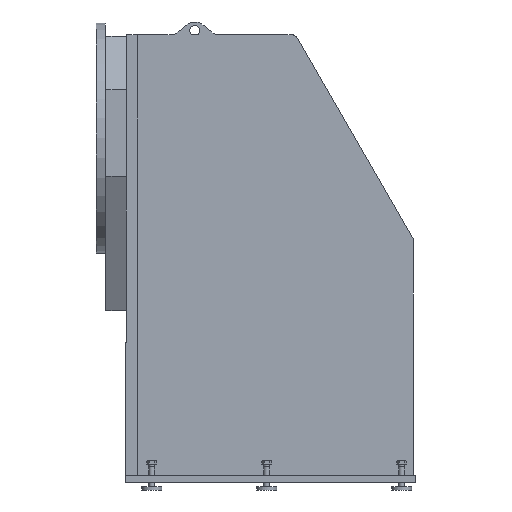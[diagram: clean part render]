
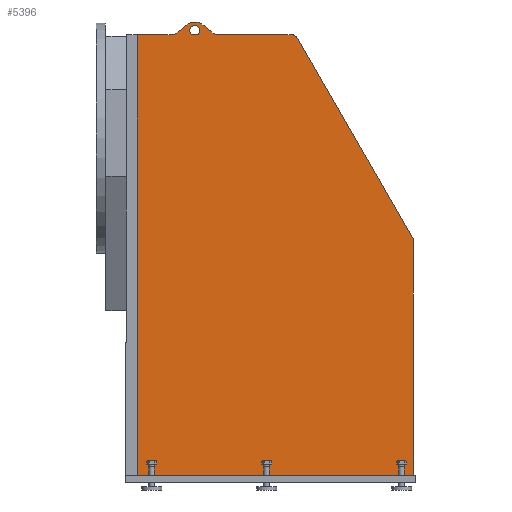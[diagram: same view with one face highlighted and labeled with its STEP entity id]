
A CAD part, front view. The second image highlights one B-rep face of the part: STEP entity #5396.
In plain terms, the highlighted planar face has unit normal (0, -1, 0).
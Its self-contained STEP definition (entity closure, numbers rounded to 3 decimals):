
#1065=CARTESIAN_POINT('',(0.,-325.,-1175.));
#1066=VERTEX_POINT('',#1065);
#1073=CARTESIAN_POINT('',(0.,-325.0,360.0));
#1074=VERTEX_POINT('',#1073);
#1075=CARTESIAN_POINT('',(0.,-325.,-1175.));
#1076=DIRECTION('',(0.0,0.0,1.0));
#1077=VECTOR('',#1076,1535.);
#1078=LINE('',#1075,#1077);
#1079=EDGE_CURVE('',#1066,#1074,#1078,.T.);
#1351=CARTESIAN_POINT('',(208.724,-325.,360.));
#1352=VERTEX_POINT('',#1351);
#1359=CARTESIAN_POINT('',(190.696,-325.,360.));
#1360=VERTEX_POINT('',#1359);
#1361=CARTESIAN_POINT('',(199.71,-325.,375.));
#1362=DIRECTION('',(0.0,1.0,0.0));
#1363=DIRECTION('',(1.0,0.0,0.0));
#1364=AXIS2_PLACEMENT_3D('',#1361,#1362,#1363);
#1365=CIRCLE('',#1364,17.5);
#1366=EDGE_CURVE('',#1360,#1352,#1365,.T.);
#5084=CARTESIAN_POINT('',(538.452,-325.,360.));
#5085=VERTEX_POINT('',#5084);
#5086=CARTESIAN_POINT('',(555.773,-325.,349.999));
#5087=VERTEX_POINT('',#5086);
#5088=CARTESIAN_POINT('',(538.452,-325.,340.));
#5089=DIRECTION('',(0.,1.0,0.));
#5090=DIRECTION('',(0.5,0.,0.866));
#5091=AXIS2_PLACEMENT_3D('',#5088,#5089,#5090);
#5092=CIRCLE('',#5091,20.);
#5093=EDGE_CURVE('',#5085,#5087,#5092,.T.);
#5116=CARTESIAN_POINT('',(113.621,-325.,360.));
#5117=VERTEX_POINT('',#5116);
#5118=CARTESIAN_POINT('',(0.,-325.0,360.0));
#5119=DIRECTION('',(1.0,0.0,0.0));
#5120=VECTOR('',#5119,113.621);
#5121=LINE('',#5118,#5120);
#5122=EDGE_CURVE('',#1074,#5117,#5121,.T.);
#5132=CARTESIAN_POINT('',(190.696,-325.,360.));
#5133=DIRECTION('',(1.0,0.0,0.0));
#5134=VECTOR('',#5133,18.028);
#5135=LINE('',#5132,#5134);
#5136=EDGE_CURVE('',#1360,#1352,#5135,.T.);
#5140=CARTESIAN_POINT('',(285.799,-325.,360.));
#5141=VERTEX_POINT('',#5140);
#5148=CARTESIAN_POINT('',(285.799,-325.,360.));
#5149=DIRECTION('',(1.0,0.0,0.0));
#5150=VECTOR('',#5149,252.653);
#5151=LINE('',#5148,#5150);
#5152=EDGE_CURVE('',#5141,#5085,#5151,.T.);
#5210=CARTESIAN_POINT('',(256.873,-325.,370.528));
#5211=VERTEX_POINT('',#5210);
#5218=CARTESIAN_POINT('',(285.799,-325.,405.));
#5219=DIRECTION('',(0.,-1.0,0.));
#5220=DIRECTION('',(-0.342,0.,-0.94));
#5221=AXIS2_PLACEMENT_3D('',#5218,#5219,#5220);
#5222=CIRCLE('',#5221,45.);
#5223=EDGE_CURVE('',#5211,#5141,#5222,.T.);
#5236=CARTESIAN_POINT('',(228.635,-325.,394.222));
#5237=VERTEX_POINT('',#5236);
#5244=CARTESIAN_POINT('',(228.635,-325.,394.222));
#5245=DIRECTION('',(0.766,0.0,-0.643));
#5246=VECTOR('',#5245,36.862);
#5247=LINE('',#5244,#5246);
#5248=EDGE_CURVE('',#5237,#5211,#5247,.T.);
#5260=CARTESIAN_POINT('',(142.547,-325.,370.528));
#5261=VERTEX_POINT('',#5260);
#5262=CARTESIAN_POINT('',(113.621,-325.,405.));
#5263=DIRECTION('',(0.,-1.,0.));
#5264=DIRECTION('',(0.342,0.,-0.94));
#5265=AXIS2_PLACEMENT_3D('',#5262,#5263,#5264);
#5266=CIRCLE('',#5265,45.);
#5267=EDGE_CURVE('',#5117,#5261,#5266,.T.);
#5283=CARTESIAN_POINT('',(170.785,-325.,394.222));
#5284=VERTEX_POINT('',#5283);
#5285=CARTESIAN_POINT('',(199.71,-325.,359.75));
#5286=DIRECTION('',(0.0,1.0,0.0));
#5287=DIRECTION('',(0.0,0.0,1.0));
#5288=AXIS2_PLACEMENT_3D('',#5285,#5286,#5287);
#5289=CIRCLE('',#5288,45.0);
#5290=EDGE_CURVE('',#5284,#5237,#5289,.T.);
#5309=CARTESIAN_POINT('',(960.,-325.,-350.253));
#5310=VERTEX_POINT('',#5309);
#5311=CARTESIAN_POINT('',(555.773,-325.,349.999));
#5312=DIRECTION('',(0.5,0.0,-0.866));
#5313=VECTOR('',#5312,808.549);
#5314=LINE('',#5311,#5313);
#5315=EDGE_CURVE('',#5087,#5310,#5314,.T.);
#5332=CARTESIAN_POINT('',(960.,-325.,-1175.));
#5333=VERTEX_POINT('',#5332);
#5334=CARTESIAN_POINT('',(960.,-325.,-350.253));
#5335=DIRECTION('',(0.0,0.0,-1.0));
#5336=VECTOR('',#5335,824.747);
#5337=LINE('',#5334,#5336);
#5338=EDGE_CURVE('',#5310,#5333,#5337,.T.);
#5357=CARTESIAN_POINT('',(142.547,-325.,370.528));
#5358=DIRECTION('',(0.766,0.0,0.643));
#5359=VECTOR('',#5358,36.862);
#5360=LINE('',#5357,#5359);
#5361=EDGE_CURVE('',#5261,#5284,#5360,.T.);
#5368=CARTESIAN_POINT('',(429.269,-325.,-456.391));
#5369=DIRECTION('',(0.0,-1.0,0.0));
#5370=DIRECTION('',(1.0,0.0,0.0));
#5371=AXIS2_PLACEMENT_3D('',#5368,#5369,#5370);
#5372=PLANE('',#5371);
#5373=ORIENTED_EDGE('',*,*,#5223,.F.);
#5374=ORIENTED_EDGE('',*,*,#5248,.F.);
#5375=ORIENTED_EDGE('',*,*,#5290,.F.);
#5376=ORIENTED_EDGE('',*,*,#5361,.F.);
#5377=ORIENTED_EDGE('',*,*,#5267,.F.);
#5378=ORIENTED_EDGE('',*,*,#5122,.F.);
#5379=ORIENTED_EDGE('',*,*,#1079,.F.);
#5380=CARTESIAN_POINT('',(960.,-325.,-1175.));
#5381=DIRECTION('',(-1.0,0.0,0.0));
#5382=VECTOR('',#5381,960.0);
#5383=LINE('',#5380,#5382);
#5384=EDGE_CURVE('',#5333,#1066,#5383,.T.);
#5385=ORIENTED_EDGE('',*,*,#5384,.F.);
#5386=ORIENTED_EDGE('',*,*,#5338,.F.);
#5387=ORIENTED_EDGE('',*,*,#5315,.F.);
#5388=ORIENTED_EDGE('',*,*,#5093,.F.);
#5389=ORIENTED_EDGE('',*,*,#5152,.F.);
#5390=EDGE_LOOP('',(#5373,#5374,#5375,#5376,#5377,#5378,#5379,#5385,#5386,#5387,#5388,#5389));
#5391=FACE_OUTER_BOUND('',#5390,.T.);
#5392=ORIENTED_EDGE('',*,*,#1366,.T.);
#5393=ORIENTED_EDGE('',*,*,#5136,.F.);
#5394=EDGE_LOOP('',(#5392,#5393));
#5395=FACE_BOUND('',#5394,.T.);
#5396=ADVANCED_FACE('',(#5391,#5395),#5372,.T.);
